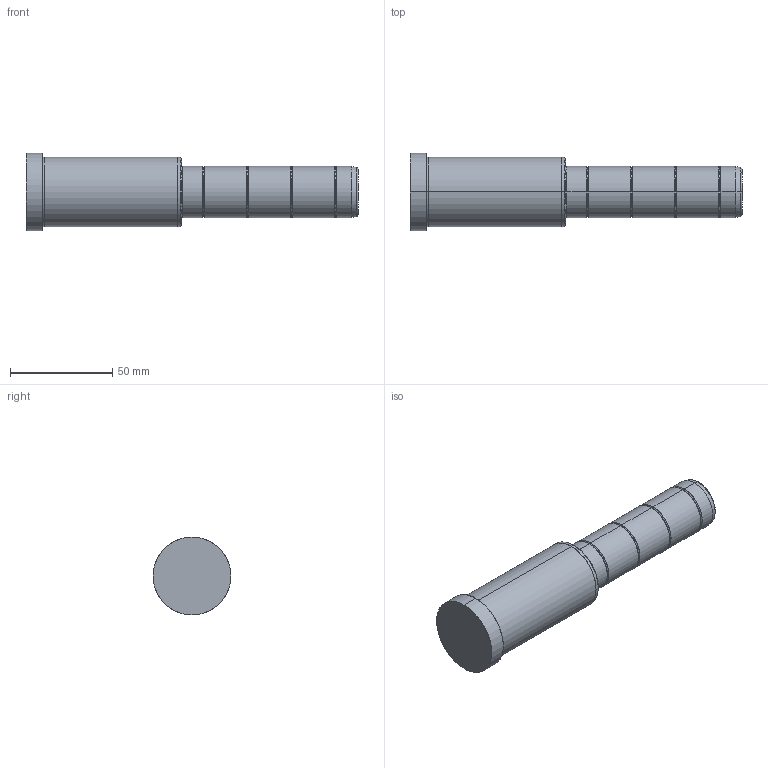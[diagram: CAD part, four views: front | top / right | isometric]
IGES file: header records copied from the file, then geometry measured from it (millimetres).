
Start section: SolidWorks IGES file using analytic representation for surfaces
Global section: file name: C:\Documents and Settings\kalite-mail\Desktop\IGS\D02\25\D02 - 25x76x86.IGS; native system: SolidWorks 2008; preprocessor: SolidWorks 2008; author: kalite-mail; date: 080617.083835; units: millimetre
Bounding box: 162 x 38 x 38 mm (x, y, z)
Surface area: 17288.2 mm2 (no closed solid volume)
Topology: 0 solids, 0 shells, 48 faces, 744 edges, 744 vertices
Faces by surface type: bspline 26, revolution 22
